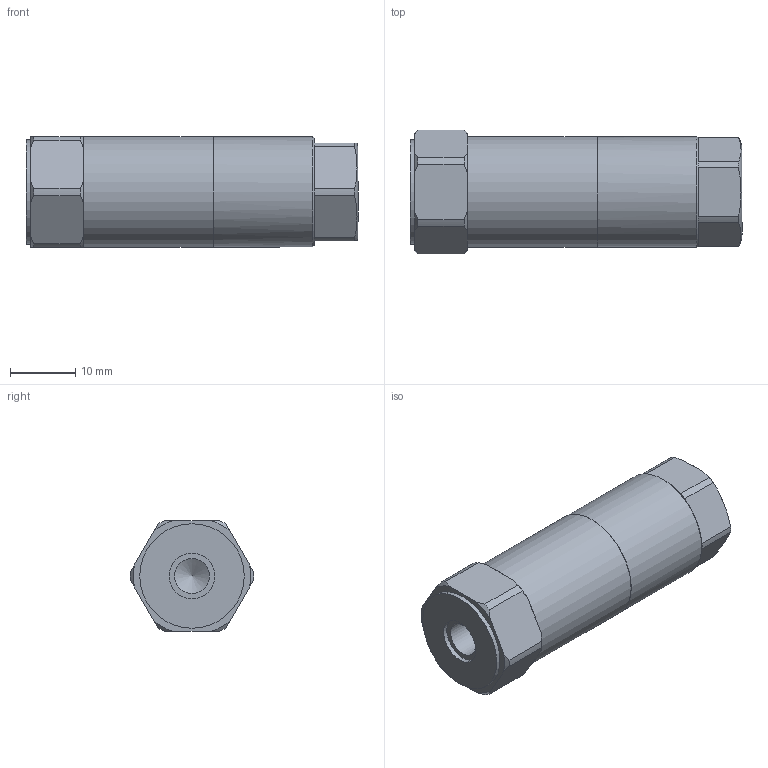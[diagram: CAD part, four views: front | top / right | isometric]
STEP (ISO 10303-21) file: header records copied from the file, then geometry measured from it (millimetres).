
FILE_DESCRIPTION(/* description */ (''),/* implementation_level */ '2;1');
FILE_NAME(/* name */ 'C:\Users\ricardo.peneda\OneDrive - Hansford Sensors Ltd\Documents\HS-170XXX0101.stp',/* time_stamp */ '2023-09-02T21:37:40+01:00',/* author */ ('Ricardo.Peneda'),/* organization */ (''),/* preprocessor_version */ 'ST-DEVELOPER v18.1',/* originating_system */ 'Autodesk Inventor 2021',/* authorisation */ '');
FILE_SCHEMA (('AUTOMOTIVE_DESIGN { 1 0 10303 214 3 1 1 }'));
Length unit declared in the file: millimetre
Products named in the file (4): HS-170XXX0101; M05-116-1-A Cable Gland; M05-116-2-A Cable Nut; M02-121-A HS-170 Shear Base Stainless Steel
Assembly tree (3 placements, depth 2):
  HS-170XXX0101
    M05-116-1-A Cable Gland
    M05-116-2-A Cable Nut
    M02-121-A HS-170 Shear Base Stainless Steel
Bounding box: 50.9 x 19 x 17 mm (x, y, z)
Volume: 5688 mm3; surface area: 6522.4 mm2
Topology: 3 solids, 3 shells, 80 faces, 198 edges, 134 vertices
Faces by surface type: plane 34, cylinder 27, cone 18, torus 1
Full cylindrical faces by diameter (mm): 5.359 x1, 7 x1, 8 x1, 9 x1, 12 x1, 12.8 x1, 14 x2, 15 x2, 15.05 x1, 15.5 x1, 16 x1, 16.9 x1, 17 x1
Entity records: 2586 total; most frequent: CARTESIAN_POINT 496, DIRECTION 439, ORIENTED_EDGE 394, EDGE_CURVE 197, AXIS2_PLACEMENT_3D 185, VERTEX_POINT 134, CIRCLE 98, EDGE_LOOP 95
